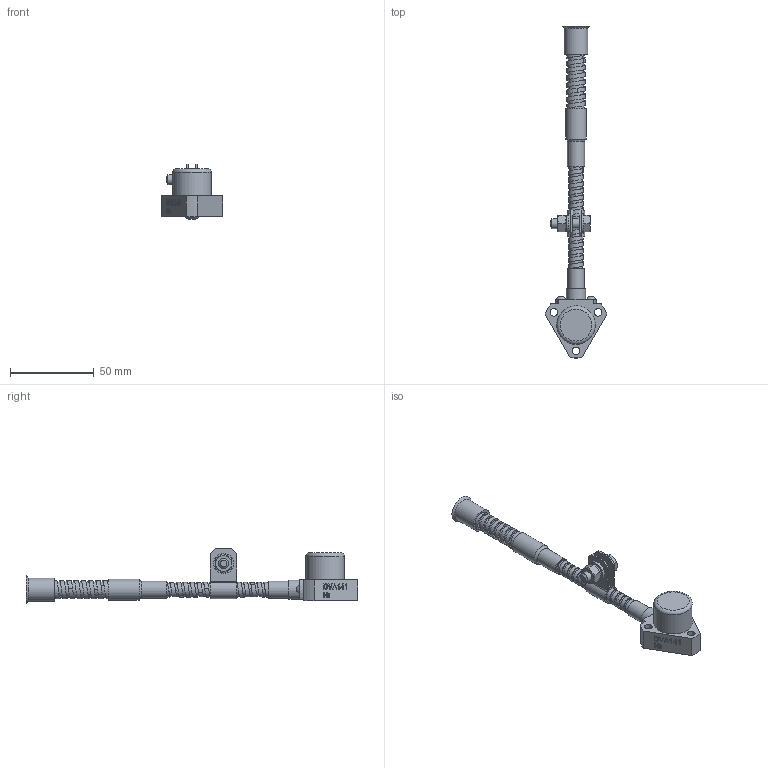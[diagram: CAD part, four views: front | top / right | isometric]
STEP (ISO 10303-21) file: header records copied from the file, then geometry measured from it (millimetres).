
FILE_DESCRIPTION(('STEP AP214'), '1');
FILE_NAME('DVAxx1.104', '2021-12-21T06:48:51', (''), (''), 'ASCON STEP Converter 1.6', 'ASCON Math Kernel', '');
FILE_SCHEMA(('AUTOMOTIVE_DESIGN { 1 0 10303 214 3 1 1}'));
Length unit declared in the file: millimetre
Bounding box: 36.94 x 198.27 x 32.9 mm (x, y, z)
Volume: 30822.4 mm3; surface area: 17043.9 mm2
Topology: 1 solids, 1 shells, 347 faces, 935 edges, 608 vertices
Faces by surface type: plane 173, cylinder 110, extrusion 44, cone 9, bspline 6, torus 3, sphere 2
Full cylindrical faces by diameter (mm): 4.5 x3, 5.5 x2, 6 x2, 6.4 x2, 6.6 x2, 7 x1, 7.5 x1, 8.5 x1, 10 x1, 10.2 x2, 11.5 x1, 12 x2, 12.3 x1, 12.5 x1, 14 x1, 23 x1
Entity records: 31997 total; most frequent: CARTESIAN_POINT 21027, ORIENTED_EDGE 1788, DIRECTION 1418, EDGE_CURVE 894, VERTEX_POINT 606, VECTOR 522, LINE 478, AXIS2_PLACEMENT_3D 448
